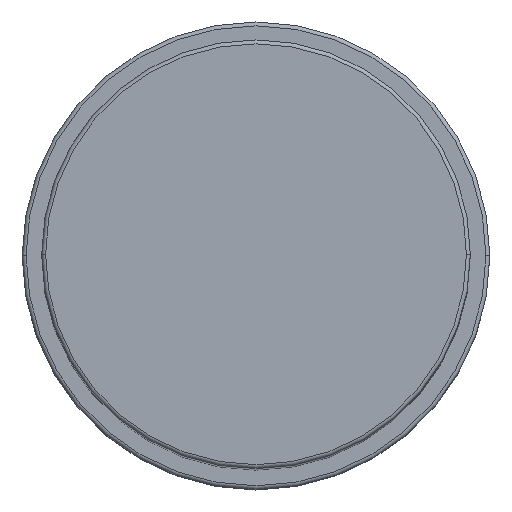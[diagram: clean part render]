
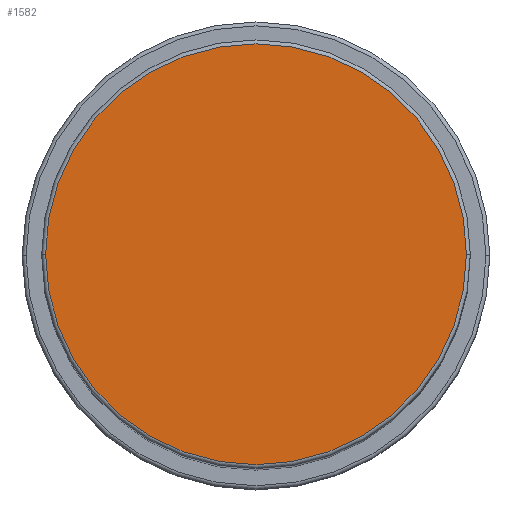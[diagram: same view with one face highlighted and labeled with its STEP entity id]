
A CAD part, top view. The second image highlights one B-rep face of the part: STEP entity #1582.
In plain terms, the highlighted planar face has unit normal (0, 0, 1).
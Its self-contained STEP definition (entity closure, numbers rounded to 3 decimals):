
#62 = PLANE ( 'NONE',  #538 ) ;
#195 = DIRECTION ( 'NONE',  ( 0., 0., 1. ) ) ;
#204 = EDGE_CURVE ( 'NONE', #715, #1136, #1469, .T. ) ;
#214 = CIRCLE ( 'NONE', #407, 27. ) ;
#240 = DIRECTION ( 'NONE',  ( 1., 0., 0. ) ) ;
#407 = AXIS2_PLACEMENT_3D ( 'NONE', #1146, #1381, #240 ) ;
#463 = EDGE_CURVE ( 'NONE', #1136, #715, #214, .T. ) ;
#538 = AXIS2_PLACEMENT_3D ( 'NONE', #954, #195, #1214 ) ;
#655 = AXIS2_PLACEMENT_3D ( 'NONE', #1373, #1503, #866 ) ;
#715 = VERTEX_POINT ( 'NONE', #1030 ) ;
#739 = ORIENTED_EDGE ( 'NONE', *, *, #463, .T. ) ;
#866 = DIRECTION ( 'NONE',  ( 1., 0., 0. ) ) ;
#954 = CARTESIAN_POINT ( 'NONE',  ( 0., 0., 128. ) ) ;
#1030 = CARTESIAN_POINT ( 'NONE',  ( 27., 0., 128. ) ) ;
#1078 = FACE_OUTER_BOUND ( 'NONE', #1389, .T. ) ;
#1136 = VERTEX_POINT ( 'NONE', #1557 ) ;
#1146 = CARTESIAN_POINT ( 'NONE',  ( 0., 0., 128. ) ) ;
#1214 = DIRECTION ( 'NONE',  ( 1., 0., 0. ) ) ;
#1373 = CARTESIAN_POINT ( 'NONE',  ( 0., 0., 128. ) ) ;
#1381 = DIRECTION ( 'NONE',  ( 0., 0., 1. ) ) ;
#1389 = EDGE_LOOP ( 'NONE', ( #1432, #739 ) ) ;
#1432 = ORIENTED_EDGE ( 'NONE', *, *, #204, .T. ) ;
#1469 = CIRCLE ( 'NONE', #655, 27. ) ;
#1503 = DIRECTION ( 'NONE',  ( 0., 0., 1. ) ) ;
#1557 = CARTESIAN_POINT ( 'NONE',  ( -27., 0., 128. ) ) ;
#1582 = ADVANCED_FACE ( 'NONE', ( #1078 ), #62, .T. ) ;
